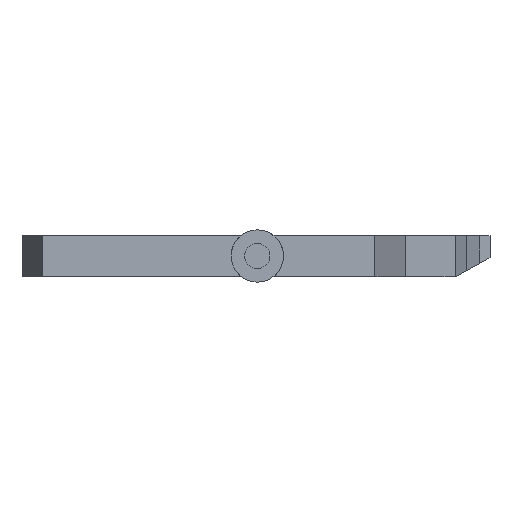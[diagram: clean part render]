
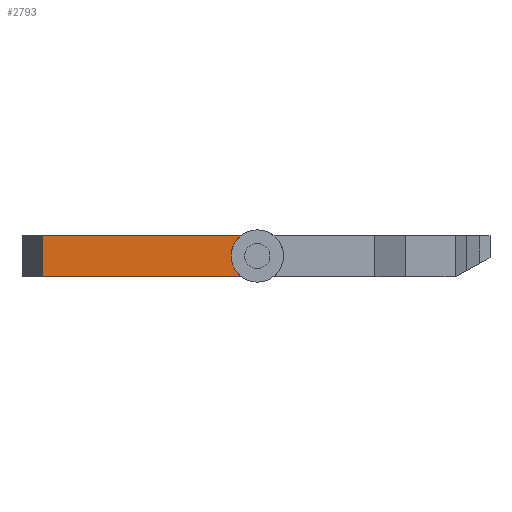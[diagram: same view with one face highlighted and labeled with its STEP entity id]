
A CAD part, left-side view. The second image highlights one B-rep face of the part: STEP entity #2793.
In plain terms, the highlighted planar face has unit normal (-1, 0, 0).
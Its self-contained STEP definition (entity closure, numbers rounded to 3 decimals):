
#244 = PLANE('',#245);
#245 = AXIS2_PLACEMENT_3D('',#246,#247,#248);
#246 = CARTESIAN_POINT('',(0.,121.334,0.25));
#247 = DIRECTION('',(0.,0.,1.));
#248 = DIRECTION('',(1.,0.,-0.));
#275 = PLANE('',#276);
#276 = AXIS2_PLACEMENT_3D('',#277,#278,#279);
#277 = CARTESIAN_POINT('',(0.,121.334,-4.5));
#278 = DIRECTION('',(0.,0.,1.));
#279 = DIRECTION('',(1.,0.,-0.));
#694 = VERTEX_POINT('',#695);
#695 = CARTESIAN_POINT('',(-16.6,146.2,0.25));
#709 = PLANE('',#710);
#710 = AXIS2_PLACEMENT_3D('',#711,#712,#713);
#711 = CARTESIAN_POINT('',(-11.2,148.5,-4.5));
#712 = DIRECTION('',(0.392,-0.92,0.));
#713 = DIRECTION('',(-0.92,-0.392,0.));
#721 = EDGE_CURVE('',#694,#722,#724,.T.);
#722 = VERTEX_POINT('',#723);
#723 = CARTESIAN_POINT('',(-16.6,123.365,0.25));
#724 = SURFACE_CURVE('',#725,(#729,#736),.PCURVE_S1.);
#725 = LINE('',#726,#727);
#726 = CARTESIAN_POINT('',(-16.6,146.2,0.25));
#727 = VECTOR('',#728,1.);
#728 = DIRECTION('',(0.,-1.,0.));
#729 = PCURVE('',#244,#730);
#730 = DEFINITIONAL_REPRESENTATION('',(#731),#735);
#731 = LINE('',#732,#733);
#732 = CARTESIAN_POINT('',(-16.6,24.866));
#733 = VECTOR('',#734,1.);
#734 = DIRECTION('',(0.,-1.));
#735 = ( GEOMETRIC_REPRESENTATION_CONTEXT(2) 
PARAMETRIC_REPRESENTATION_CONTEXT() REPRESENTATION_CONTEXT('2D SPACE',''
  ) );
#736 = PCURVE('',#737,#742);
#737 = PLANE('',#738);
#738 = AXIS2_PLACEMENT_3D('',#739,#740,#741);
#739 = CARTESIAN_POINT('',(-16.6,146.2,-4.5));
#740 = DIRECTION('',(1.,0.,-0.));
#741 = DIRECTION('',(0.,-1.,0.));
#742 = DEFINITIONAL_REPRESENTATION('',(#743),#747);
#743 = LINE('',#744,#745);
#744 = CARTESIAN_POINT('',(0.,-4.75));
#745 = VECTOR('',#746,1.);
#746 = DIRECTION('',(1.,0.));
#747 = ( GEOMETRIC_REPRESENTATION_CONTEXT(2) 
PARAMETRIC_REPRESENTATION_CONTEXT() REPRESENTATION_CONTEXT('2D SPACE',''
  ) );
#1375 = VERTEX_POINT('',#1376);
#1376 = CARTESIAN_POINT('',(-16.6,146.2,-4.5));
#1397 = EDGE_CURVE('',#1375,#1398,#1400,.T.);
#1398 = VERTEX_POINT('',#1399);
#1399 = CARTESIAN_POINT('',(-16.6,123.3,-4.5));
#1400 = SURFACE_CURVE('',#1401,(#1405,#1412),.PCURVE_S1.);
#1401 = LINE('',#1402,#1403);
#1402 = CARTESIAN_POINT('',(-16.6,146.2,-4.5));
#1403 = VECTOR('',#1404,1.);
#1404 = DIRECTION('',(0.,-1.,0.));
#1405 = PCURVE('',#275,#1406);
#1406 = DEFINITIONAL_REPRESENTATION('',(#1407),#1411);
#1407 = LINE('',#1408,#1409);
#1408 = CARTESIAN_POINT('',(-16.6,24.866));
#1409 = VECTOR('',#1410,1.);
#1410 = DIRECTION('',(0.,-1.));
#1411 = ( GEOMETRIC_REPRESENTATION_CONTEXT(2) 
PARAMETRIC_REPRESENTATION_CONTEXT() REPRESENTATION_CONTEXT('2D SPACE',''
  ) );
#1412 = PCURVE('',#737,#1413);
#1413 = DEFINITIONAL_REPRESENTATION('',(#1414),#1418);
#1414 = LINE('',#1415,#1416);
#1415 = CARTESIAN_POINT('',(0.,0.));
#1416 = VECTOR('',#1417,1.);
#1417 = DIRECTION('',(1.,0.));
#1418 = ( GEOMETRIC_REPRESENTATION_CONTEXT(2) 
PARAMETRIC_REPRESENTATION_CONTEXT() REPRESENTATION_CONTEXT('2D SPACE',''
  ) );
#2730 = CYLINDRICAL_SURFACE('',#2731,3.);
#2731 = AXIS2_PLACEMENT_3D('',#2732,#2733,#2734);
#2732 = CARTESIAN_POINT('',(-20.1,121.5,-2.1));
#2733 = DIRECTION('',(1.,0.,0.));
#2734 = DIRECTION('',(-0.,0.,1.));
#2793 = ADVANCED_FACE('',(#2794),#737,.F.);
#2794 = FACE_BOUND('',#2795,.F.);
#2795 = EDGE_LOOP('',(#2796,#2797,#2818,#2819));
#2796 = ORIENTED_EDGE('',*,*,#1397,.F.);
#2797 = ORIENTED_EDGE('',*,*,#2798,.T.);
#2798 = EDGE_CURVE('',#1375,#694,#2799,.T.);
#2799 = SURFACE_CURVE('',#2800,(#2804,#2811),.PCURVE_S1.);
#2800 = LINE('',#2801,#2802);
#2801 = CARTESIAN_POINT('',(-16.6,146.2,-4.5));
#2802 = VECTOR('',#2803,1.);
#2803 = DIRECTION('',(0.,0.,1.));
#2804 = PCURVE('',#737,#2805);
#2805 = DEFINITIONAL_REPRESENTATION('',(#2806),#2810);
#2806 = LINE('',#2807,#2808);
#2807 = CARTESIAN_POINT('',(0.,0.));
#2808 = VECTOR('',#2809,1.);
#2809 = DIRECTION('',(0.,-1.));
#2810 = ( GEOMETRIC_REPRESENTATION_CONTEXT(2) 
PARAMETRIC_REPRESENTATION_CONTEXT() REPRESENTATION_CONTEXT('2D SPACE',''
  ) );
#2811 = PCURVE('',#709,#2812);
#2812 = DEFINITIONAL_REPRESENTATION('',(#2813),#2817);
#2813 = LINE('',#2814,#2815);
#2814 = CARTESIAN_POINT('',(5.869,0.));
#2815 = VECTOR('',#2816,1.);
#2816 = DIRECTION('',(0.,-1.));
#2817 = ( GEOMETRIC_REPRESENTATION_CONTEXT(2) 
PARAMETRIC_REPRESENTATION_CONTEXT() REPRESENTATION_CONTEXT('2D SPACE',''
  ) );
#2818 = ORIENTED_EDGE('',*,*,#721,.T.);
#2819 = ORIENTED_EDGE('',*,*,#2820,.F.);
#2820 = EDGE_CURVE('',#1398,#722,#2821,.T.);
#2821 = SURFACE_CURVE('',#2822,(#2827,#2834),.PCURVE_S1.);
#2822 = CIRCLE('',#2823,3.);
#2823 = AXIS2_PLACEMENT_3D('',#2824,#2825,#2826);
#2824 = CARTESIAN_POINT('',(-16.6,121.5,-2.1));
#2825 = DIRECTION('',(1.,0.,0.));
#2826 = DIRECTION('',(-0.,0.,1.));
#2827 = PCURVE('',#737,#2828);
#2828 = DEFINITIONAL_REPRESENTATION('',(#2829),#2833);
#2829 = CIRCLE('',#2830,3.);
#2830 = AXIS2_PLACEMENT_2D('',#2831,#2832);
#2831 = CARTESIAN_POINT('',(24.7,-2.4));
#2832 = DIRECTION('',(0.,-1.));
#2833 = ( GEOMETRIC_REPRESENTATION_CONTEXT(2) 
PARAMETRIC_REPRESENTATION_CONTEXT() REPRESENTATION_CONTEXT('2D SPACE',''
  ) );
#2834 = PCURVE('',#2730,#2835);
#2835 = DEFINITIONAL_REPRESENTATION('',(#2836),#2840);
#2836 = LINE('',#2837,#2838);
#2837 = CARTESIAN_POINT('',(0.,3.5));
#2838 = VECTOR('',#2839,1.);
#2839 = DIRECTION('',(1.,0.));
#2840 = ( GEOMETRIC_REPRESENTATION_CONTEXT(2) 
PARAMETRIC_REPRESENTATION_CONTEXT() REPRESENTATION_CONTEXT('2D SPACE',''
  ) );
